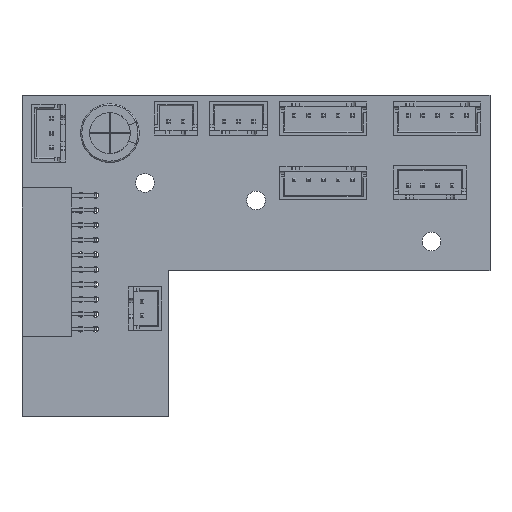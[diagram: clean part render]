
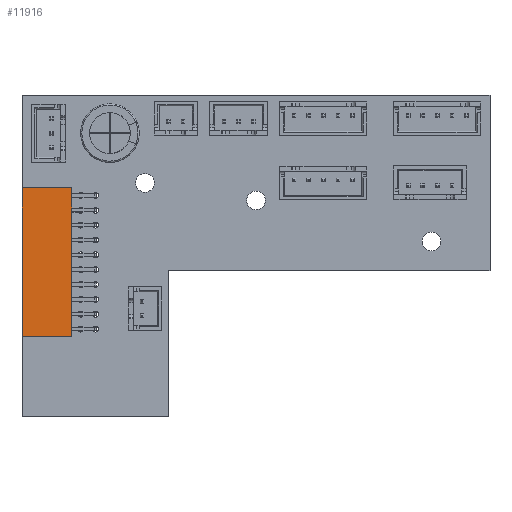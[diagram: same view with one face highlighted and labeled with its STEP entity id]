
A CAD part, top view. The second image highlights one B-rep face of the part: STEP entity #11916.
In plain terms, the highlighted planar face has unit normal (0, 0, 1).
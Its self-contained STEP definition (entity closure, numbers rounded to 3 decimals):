
#11916 = ADVANCED_FACE('',(#11917),#11951,.F.);
#11917 = FACE_BOUND('',#11918,.F.);
#11918 = EDGE_LOOP('',(#11919,#11929,#11937,#11945));
#11919 = ORIENTED_EDGE('',*,*,#11920,.T.);
#11920 = EDGE_CURVE('',#11921,#11923,#11925,.T.);
#11921 = VERTEX_POINT('',#11922);
#11922 = CARTESIAN_POINT('',(-4.06,-24.13,5.08));
#11923 = VERTEX_POINT('',#11924);
#11924 = CARTESIAN_POINT('',(-12.57,-24.13,5.08));
#11925 = LINE('',#11926,#11927);
#11926 = CARTESIAN_POINT('',(-4.06,-24.13,5.08));
#11927 = VECTOR('',#11928,1.);
#11928 = DIRECTION('',(-1.,0.,0.));
#11929 = ORIENTED_EDGE('',*,*,#11930,.T.);
#11930 = EDGE_CURVE('',#11923,#11931,#11933,.T.);
#11931 = VERTEX_POINT('',#11932);
#11932 = CARTESIAN_POINT('',(-12.57,1.27,5.08));
#11933 = LINE('',#11934,#11935);
#11934 = CARTESIAN_POINT('',(-12.57,-24.13,5.08));
#11935 = VECTOR('',#11936,1.);
#11936 = DIRECTION('',(0.,1.,0.));
#11937 = ORIENTED_EDGE('',*,*,#11938,.F.);
#11938 = EDGE_CURVE('',#11939,#11931,#11941,.T.);
#11939 = VERTEX_POINT('',#11940);
#11940 = CARTESIAN_POINT('',(-4.06,1.27,5.08));
#11941 = LINE('',#11942,#11943);
#11942 = CARTESIAN_POINT('',(-4.06,1.27,5.08));
#11943 = VECTOR('',#11944,1.);
#11944 = DIRECTION('',(-1.,0.,0.));
#11945 = ORIENTED_EDGE('',*,*,#11946,.F.);
#11946 = EDGE_CURVE('',#11921,#11939,#11947,.T.);
#11947 = LINE('',#11948,#11949);
#11948 = CARTESIAN_POINT('',(-4.06,-24.13,5.08));
#11949 = VECTOR('',#11950,1.);
#11950 = DIRECTION('',(0.,1.,0.));
#11951 = PLANE('',#11952);
#11952 = AXIS2_PLACEMENT_3D('',#11953,#11954,#11955);
#11953 = CARTESIAN_POINT('',(-4.06,-24.13,5.08));
#11954 = DIRECTION('',(0.,0.,-1.));
#11955 = DIRECTION('',(0.,1.,0.));
